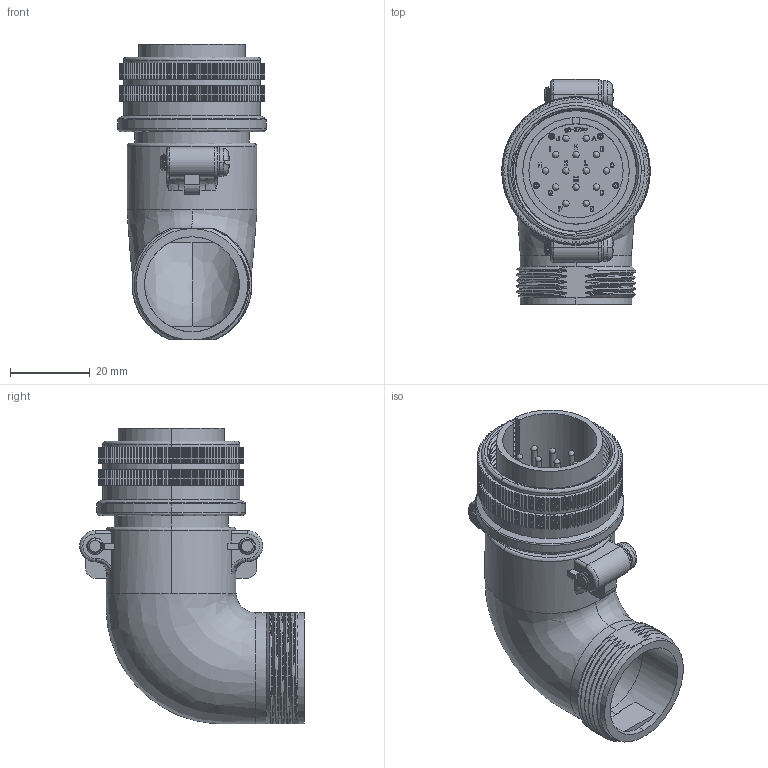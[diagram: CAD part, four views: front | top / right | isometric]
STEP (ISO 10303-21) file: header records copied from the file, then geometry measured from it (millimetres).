
FILE_DESCRIPTION (( 'STEP AP203' ), '1' );
FILE_NAME ('DMS3108B20-27P.STEP', '2017-06-08T02:09:38', ( '' ), ( '' ), 'SwSTEP 2.0', 'SolidWorks 2015', '' );
FILE_SCHEMA (( 'CONFIG_CONTROL_DESIGN' ));
Products named in the file (1): DMS3108B20-27P
Bounding box: 37.23 x 56.26 x 74.1 mm (x, y, z)
Volume: 29261.8 mm3; surface area: 26128.9 mm2
Topology: 1 solids, 3 shells, 2864 faces, 8178 edges, 5384 vertices
Faces by surface type: cylinder 1365, plane 1173, bspline 274, cone 52
Entity records: 122068 total; most frequent: CARTESIAN_POINT 47287, ORIENTED_EDGE 16244, DIRECTION 15312, EDGE_CURVE 8122, VERTEX_POINT 5384, AXIS2_PLACEMENT_3D 5309, LINE 4694, VECTOR 4694
